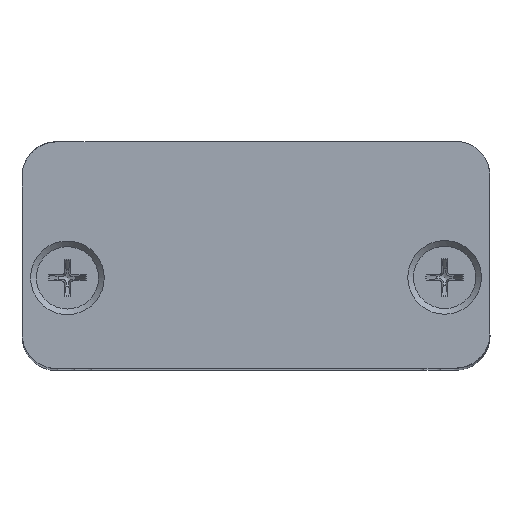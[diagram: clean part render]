
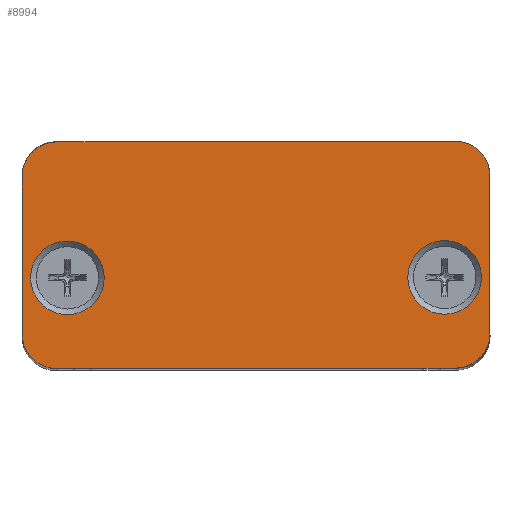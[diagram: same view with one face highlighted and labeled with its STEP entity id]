
A CAD part, top view. The second image highlights one B-rep face of the part: STEP entity #8994.
In plain terms, the highlighted planar face has unit normal (0, 0, 1).
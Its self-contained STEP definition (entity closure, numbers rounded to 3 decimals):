
#8604=CARTESIAN_POINT('',(-29.557,9.942,2.0));
#8605=VERTEX_POINT('',#8604);
#8606=CARTESIAN_POINT('',(-32.807,9.942,2.0));
#8607=DIRECTION('',(0.0,0.0,-1.0));
#8608=DIRECTION('',(1.0,0.0,0.0));
#8609=AXIS2_PLACEMENT_3D('',#8606,#8607,#8608);
#8610=CIRCLE('',#8609,3.25);
#8611=EDGE_CURVE('',#8605,#8605,#8610,.T.);
#8652=CARTESIAN_POINT('',(3.743,9.942,2.0));
#8653=VERTEX_POINT('',#8652);
#8654=CARTESIAN_POINT('',(0.493,9.942,2.0));
#8655=DIRECTION('',(0.0,0.0,-1.0));
#8656=DIRECTION('',(1.0,0.0,0.0));
#8657=AXIS2_PLACEMENT_3D('',#8654,#8655,#8656);
#8658=CIRCLE('',#8657,3.25);
#8659=EDGE_CURVE('',#8653,#8653,#8658,.T.);
#8700=CARTESIAN_POINT('',(-33.807,21.942,2.0));
#8701=VERTEX_POINT('',#8700);
#8702=CARTESIAN_POINT('',(1.493,21.942,2.0));
#8703=VERTEX_POINT('',#8702);
#8704=CARTESIAN_POINT('',(-33.807,21.942,2.0));
#8705=DIRECTION('',(1.0,0.0,0.0));
#8706=VECTOR('',#8705,35.3);
#8707=LINE('',#8704,#8706);
#8708=EDGE_CURVE('',#8701,#8703,#8707,.T.);
#8740=CARTESIAN_POINT('',(4.493,18.942,2.0));
#8741=VERTEX_POINT('',#8740);
#8742=CARTESIAN_POINT('',(1.493,18.942,2.0));
#8743=DIRECTION('',(0.0,0.0,-1.0));
#8744=DIRECTION('',(1.0,0.0,0.0));
#8745=AXIS2_PLACEMENT_3D('',#8742,#8743,#8744);
#8746=CIRCLE('',#8745,3.0);
#8747=EDGE_CURVE('',#8703,#8741,#8746,.T.);
#8773=CARTESIAN_POINT('',(4.493,4.942,2.0));
#8774=VERTEX_POINT('',#8773);
#8775=CARTESIAN_POINT('',(4.493,18.942,2.0));
#8776=DIRECTION('',(0.0,-1.0,0.0));
#8777=VECTOR('',#8776,14.);
#8778=LINE('',#8775,#8777);
#8779=EDGE_CURVE('',#8741,#8774,#8778,.T.);
#8804=CARTESIAN_POINT('',(1.493,1.942,2.0));
#8805=VERTEX_POINT('',#8804);
#8806=CARTESIAN_POINT('',(1.493,4.942,2.0));
#8807=DIRECTION('',(0.0,0.0,-1.0));
#8808=DIRECTION('',(0.0,-1.0,0.0));
#8809=AXIS2_PLACEMENT_3D('',#8806,#8807,#8808);
#8810=CIRCLE('',#8809,3.0);
#8811=EDGE_CURVE('',#8774,#8805,#8810,.T.);
#8837=CARTESIAN_POINT('',(-33.807,1.942,2.0));
#8838=VERTEX_POINT('',#8837);
#8839=CARTESIAN_POINT('',(1.493,1.942,2.0));
#8840=DIRECTION('',(-1.0,0.0,0.0));
#8841=VECTOR('',#8840,35.3);
#8842=LINE('',#8839,#8841);
#8843=EDGE_CURVE('',#8805,#8838,#8842,.T.);
#8868=CARTESIAN_POINT('',(-36.807,4.942,2.0));
#8869=VERTEX_POINT('',#8868);
#8870=CARTESIAN_POINT('',(-33.807,4.942,2.0));
#8871=DIRECTION('',(0.0,0.0,-1.0));
#8872=DIRECTION('',(-1.0,0.0,0.0));
#8873=AXIS2_PLACEMENT_3D('',#8870,#8871,#8872);
#8874=CIRCLE('',#8873,3.0);
#8875=EDGE_CURVE('',#8838,#8869,#8874,.T.);
#8901=CARTESIAN_POINT('',(-36.807,18.942,2.0));
#8902=VERTEX_POINT('',#8901);
#8903=CARTESIAN_POINT('',(-36.807,4.942,2.0));
#8904=DIRECTION('',(0.0,1.0,0.0));
#8905=VECTOR('',#8904,14.);
#8906=LINE('',#8903,#8905);
#8907=EDGE_CURVE('',#8869,#8902,#8906,.T.);
#8932=CARTESIAN_POINT('',(-33.807,18.942,2.0));
#8933=DIRECTION('',(0.0,0.0,-1.0));
#8934=DIRECTION('',(0.0,1.0,0.0));
#8935=AXIS2_PLACEMENT_3D('',#8932,#8933,#8934);
#8936=CIRCLE('',#8935,3.0);
#8937=EDGE_CURVE('',#8902,#8701,#8936,.T.);
#8973=CARTESIAN_POINT('',(-16.157,11.942,2.0));
#8974=DIRECTION('',(0.0,0.0,1.0));
#8975=DIRECTION('',(1.0,0.0,0.0));
#8976=AXIS2_PLACEMENT_3D('',#8973,#8974,#8975);
#8977=PLANE('',#8976);
#8978=ORIENTED_EDGE('',*,*,#8708,.F.);
#8979=ORIENTED_EDGE('',*,*,#8937,.F.);
#8980=ORIENTED_EDGE('',*,*,#8907,.F.);
#8981=ORIENTED_EDGE('',*,*,#8875,.F.);
#8982=ORIENTED_EDGE('',*,*,#8843,.F.);
#8983=ORIENTED_EDGE('',*,*,#8811,.F.);
#8984=ORIENTED_EDGE('',*,*,#8779,.F.);
#8985=ORIENTED_EDGE('',*,*,#8747,.F.);
#8986=EDGE_LOOP('',(#8978,#8979,#8980,#8981,#8982,#8983,#8984,#8985));
#8987=FACE_OUTER_BOUND('',#8986,.T.);
#8988=ORIENTED_EDGE('',*,*,#8611,.T.);
#8989=EDGE_LOOP('',(#8988));
#8990=FACE_BOUND('',#8989,.T.);
#8991=ORIENTED_EDGE('',*,*,#8659,.T.);
#8992=EDGE_LOOP('',(#8991));
#8993=FACE_BOUND('',#8992,.T.);
#8994=ADVANCED_FACE('',(#8987,#8990,#8993),#8977,.T.);
